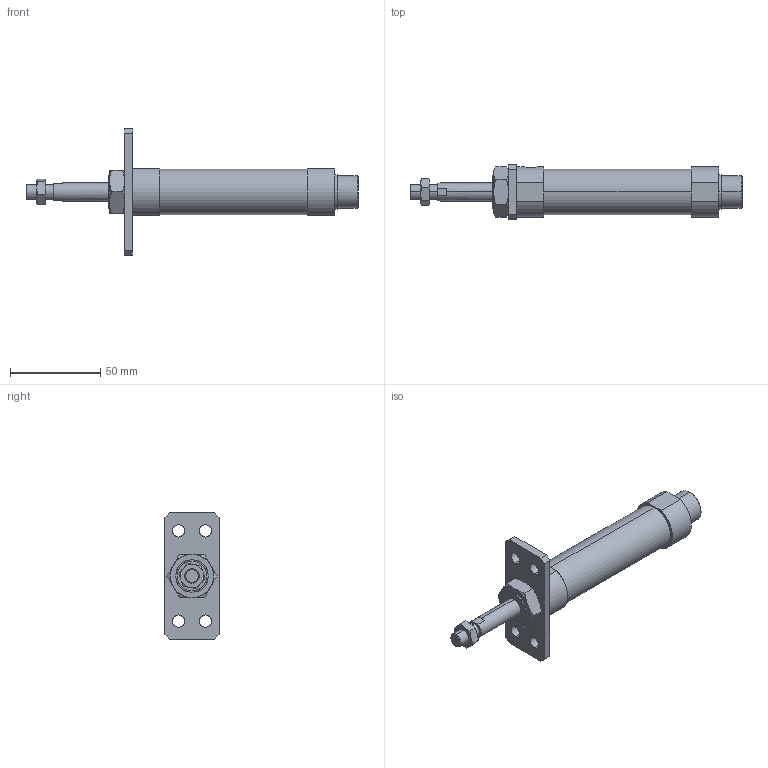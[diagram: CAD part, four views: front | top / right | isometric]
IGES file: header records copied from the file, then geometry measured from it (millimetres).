
Start section: SolidWorks IGES file using analytic representation for surfaces
Global section: file name: C:\Users\Toshiba\Desktop\J#0-20-25-A.IGS; native system: SolidWorks 2014; preprocessor: SolidWorks 2014; author: Toshiba; date: 160308.141624; units: millimetre
Bounding box: 184 x 30 x 70 mm (x, y, z)
Surface area: 20638.9 mm2 (no closed solid volume)
Topology: 0 solids, 0 shells, 109 faces, 1922 edges, 1922 vertices
Faces by surface type: bspline 69, revolution 40
